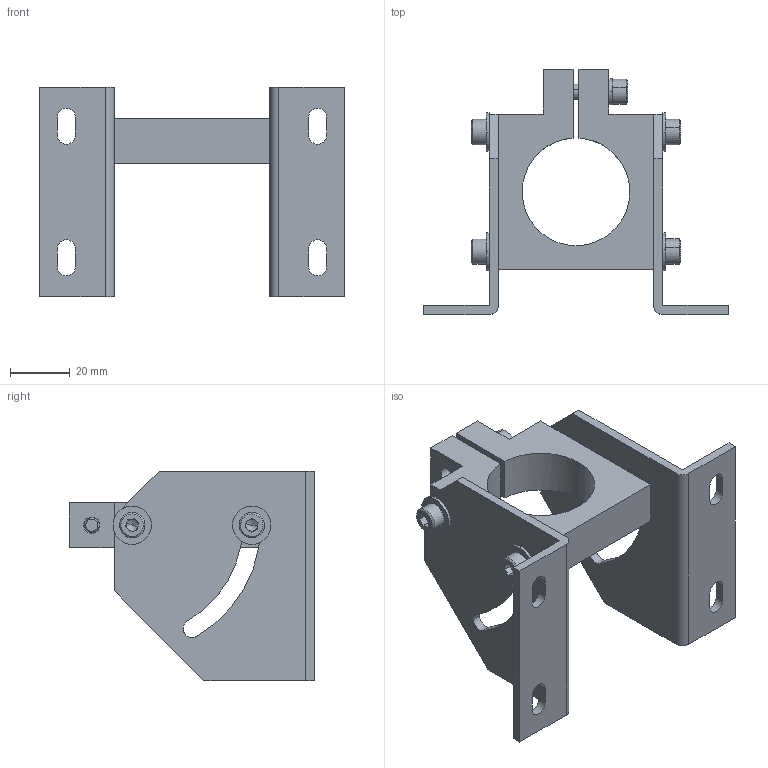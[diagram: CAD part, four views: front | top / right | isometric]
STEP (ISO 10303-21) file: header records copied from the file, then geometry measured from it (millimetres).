
FILE_DESCRIPTION (( 'STEP AP214' ), '1' );
FILE_NAME ('NR10LST.STEP', '2019-11-28T01:09:38', ( '微软用户' ), ( '微软中国' ), 'SwSTEP 2.0', 'SolidWorks 2016', '' );
FILE_SCHEMA (( 'AUTOMOTIVE_DESIGN' ));
Length unit declared in the file: millimetre
Products named in the file (1): NR10LST
Bounding box: 102 x 82 x 70 mm (x, y, z)
Volume: 62495.7 mm3; surface area: 37936.4 mm2
Topology: 13 solids, 13 shells, 239 faces, 552 edges, 343 vertices
Faces by surface type: plane 130, cylinder 76, cone 30, bspline 3
Entity records: 9518 total; most frequent: DIRECTION 1212, CARTESIAN_POINT 1164, ORIENTED_EDGE 1084, EDGE_CURVE 542, AXIS2_PLACEMENT_3D 439, VERTEX_POINT 343, LINE 334, VECTOR 334
